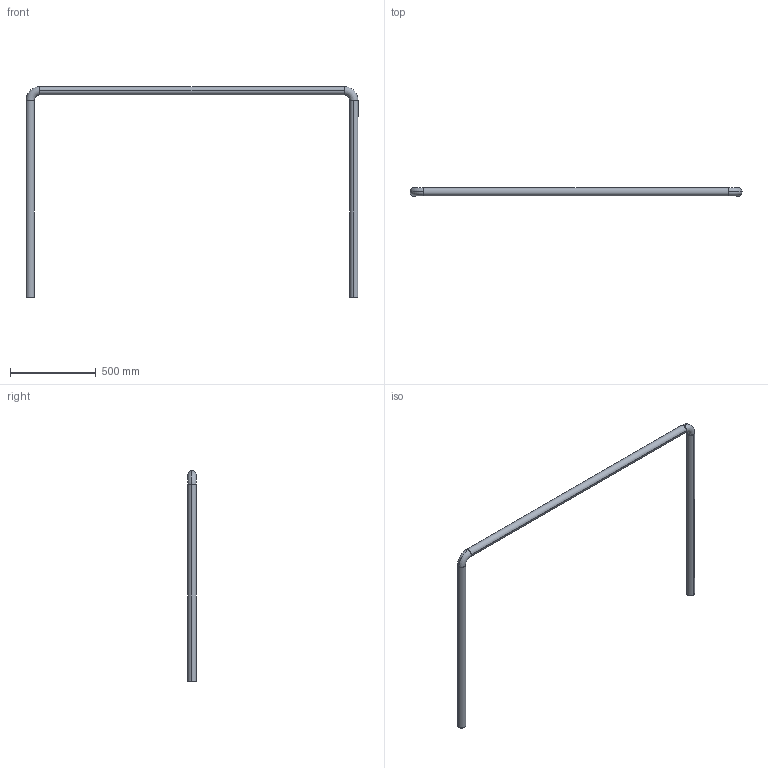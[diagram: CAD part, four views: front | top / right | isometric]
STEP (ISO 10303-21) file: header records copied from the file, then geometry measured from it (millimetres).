
FILE_DESCRIPTION (( 'STEP AP214' ), '1' );
FILE_NAME ('CCJ029-REP.327 - MAIN COURANTE GARDE CORPS AMOVIBLE A4-A5.STEP', '2024-01-31T10:09:33', ( '' ), ( '' ), 'SwSTEP 2.0', 'SolidWorks 2021', '' );
FILE_SCHEMA (( 'AUTOMOTIVE_DESIGN' ));
Length unit declared in the file: millimetre
Products named in the file (1): CCJ029-REP.327 - MAIN COURANTE GARDE CORPS AMOVIBLE A4-A5
Bounding box: 1938.3 x 48.3 x 1230 mm (x, y, z)
Volume: 1529381.9 mm3; surface area: 1224381.6 mm2
Topology: 1 solids, 1 shells, 26 faces, 68 edges, 44 vertices
Faces by surface type: cylinder 16, torus 8, plane 2
Entity records: 1134 total; most frequent: CARTESIAN_POINT 419, DIRECTION 158, ORIENTED_EDGE 136, AXIS2_PLACEMENT_3D 71, EDGE_CURVE 68, CIRCLE 44, VERTEX_POINT 44, EDGE_LOOP 32
